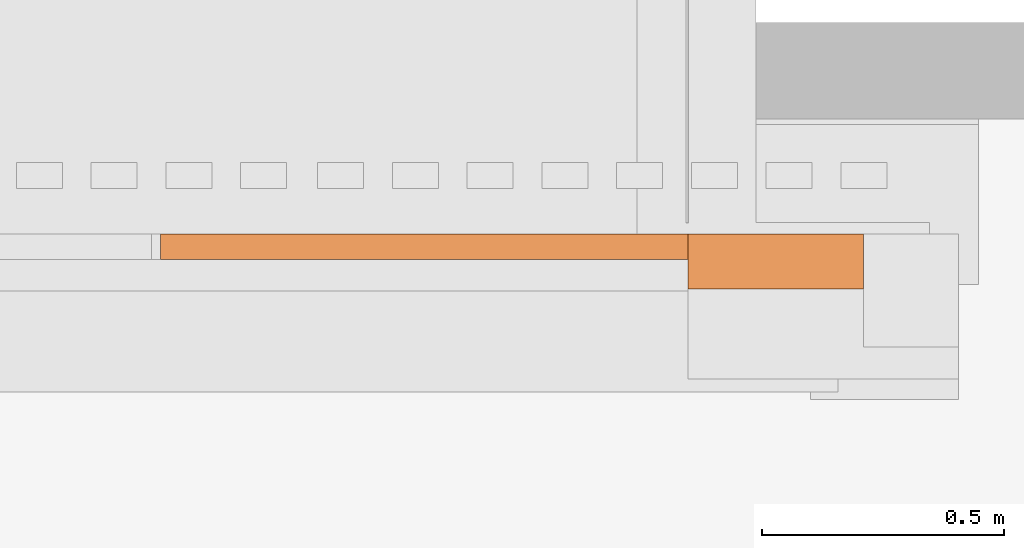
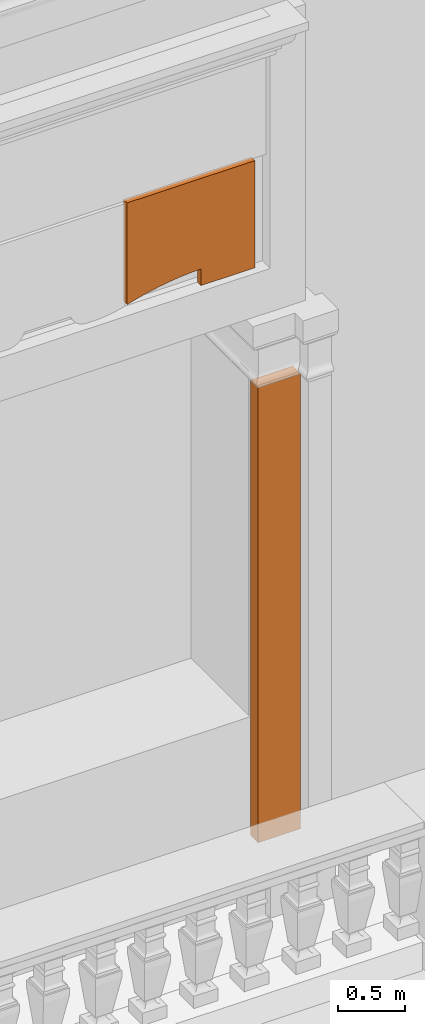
# One storey, part 5 of 14: 2 proxies.
"""IFC2X3 building model written with IfcOpenShell, lengths in metres."""

from ifc_helpers import new_model, entity, si_unit, converted_unit, derived_unit, direction, frame, frame_2d, origin, place, context, subcontext, project, spatial, polyline, circle_curve, parameter, trimmed, segment, composite_curve, rectangle, outline, extrude, material, element, save


model = new_model("IFC2X3")

# Units and contexts
model_context = context("Model", 3, precision=1e-05, world=origin(), true_north=direction((6.12303176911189e-17, 1.0)))
body_context = subcontext(model_context, "Body", "Model", "MODEL_VIEW")
ifc_project = project(units=[si_unit("LENGTHUNIT", "METRE"), si_unit("AREAUNIT", "SQUARE_METRE"), si_unit("VOLUMEUNIT", "CUBIC_METRE"), converted_unit("PLANEANGLEUNIT", "DEGREE", entity("IfcRatioMeasure", 0.0174532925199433), si_unit("PLANEANGLEUNIT", "RADIAN"), dimensions=[0, 0, 0, 0, 0, 0, 0]), si_unit("MASSUNIT", "GRAM", prefix="KILO"), derived_unit("MASSDENSITYUNIT", [(si_unit("MASSUNIT", "GRAM", prefix="KILO"), 1), (si_unit("LENGTHUNIT", "METRE"), -3)]), si_unit("TIMEUNIT", "SECOND"), si_unit("FREQUENCYUNIT", "HERTZ"), si_unit("THERMODYNAMICTEMPERATUREUNIT", "DEGREE_CELSIUS"), derived_unit("THERMALTRANSMITTANCEUNIT", [(si_unit("MASSUNIT", "GRAM", prefix="KILO"), 1), (si_unit("THERMODYNAMICTEMPERATUREUNIT", "KELVIN"), -1), (si_unit("TIMEUNIT", "SECOND"), -3)]), derived_unit("VOLUMETRICFLOWRATEUNIT", [(si_unit("LENGTHUNIT", "METRE"), 3), (si_unit("TIMEUNIT", "SECOND"), -1)]), si_unit("ELECTRICCURRENTUNIT", "AMPERE"), si_unit("ELECTRICVOLTAGEUNIT", "VOLT"), si_unit("POWERUNIT", "WATT"), si_unit("FORCEUNIT", "NEWTON", prefix="KILO"), si_unit("ILLUMINANCEUNIT", "LUX"), si_unit("LUMINOUSFLUXUNIT", "LUMEN"), si_unit("LUMINOUSINTENSITYUNIT", "CANDELA"), derived_unit("USERDEFINED", [(si_unit("MASSUNIT", "GRAM", prefix="KILO"), -1), (si_unit("LENGTHUNIT", "METRE"), -2), (si_unit("TIMEUNIT", "SECOND"), 3), (si_unit("LUMINOUSFLUXUNIT", "LUMEN"), 1)]), derived_unit("LINEARVELOCITYUNIT", [(si_unit("LENGTHUNIT", "METRE"), 1), (si_unit("TIMEUNIT", "SECOND"), -1)]), si_unit("PRESSUREUNIT", "PASCAL"), derived_unit("USERDEFINED", [(si_unit("LENGTHUNIT", "METRE"), -2), (si_unit("MASSUNIT", "GRAM", prefix="KILO"), 1), (si_unit("TIMEUNIT", "SECOND"), -2)])], contexts=[model_context])

# Site, building, storey
site_placement = place(None, origin())
site = spatial("IfcSite", under=ifc_project, at=site_placement, Name="Default", CompositionType="ELEMENT")
building_placement = place(site_placement, origin())
building = spatial("IfcBuilding", under=site, at=building_placement, CompositionType="ELEMENT")
storey_placement = place(building_placement, frame((0.0, 0.0, 13.366833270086)))
storey = spatial("IfcBuildingStorey", under=building, at=storey_placement, Name="Livello 2", CompositionType="ELEMENT", Elevation=13.366833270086)

# Proxies
ifc_material = material(Name="Travertino")
proxy_1_placement = place(storey_placement, frame((-6.49001124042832, 0.972978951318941, 5.76637845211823)))
element("IfcBuildingElementProxy", 1, at=proxy_1_placement, inside=storey, material=ifc_material, Name="Stratigrafia", context=body_context, shape_type="SweptSolid", body=[
    extrude(outline(composite_curve([segment(polyline([(-0.358597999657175, 0.0568382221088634), (-0.207085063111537, 0.0568382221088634)]), True, "CONTINUOUS"), segment(trimmed(circle_curve(frame_2d((-2.56510142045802, 0.109181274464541), x_axis=(0.949944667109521, -0.31241819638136)), 2.35859723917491), [parameter(1.27233359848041)], [parameter(16.9333846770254)], True, "PARAMETER"), False, "CONTINUOUS"), segment(polyline([(-0.308755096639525, -0.577755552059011), (0.61654518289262, -0.577723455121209)]), True, "CONTINUOUS"), segment(polyline([(0.61654518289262, -0.577723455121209), (0.616507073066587, 0.520918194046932)]), True, "CONTINUOUS"), segment(polyline([(0.616507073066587, 0.520918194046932), (-0.358614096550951, 0.520884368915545)]), True, "CONTINUOUS"), segment(polyline([(-0.358614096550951, 0.520884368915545), (-0.358597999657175, 0.0568382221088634)]), True, "CONTINUOUS")], self_intersect=False)), frame((0.579340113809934, 0.0, 0.358596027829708), z_axis=(0.0, 1.0, 0.0), x_axis=(-3.46881315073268e-05, 0.0, 1.0)), (0.0, 0.0, 1.0), 0.0525535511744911),
])
proxy_2_placement = place(storey_placement, frame((-5.39648498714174, 0.912024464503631, 0.572700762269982)))
element("IfcBuildingElementProxy", 2, at=proxy_2_placement, inside=storey, material=ifc_material, Name="Stratigrafia", context=body_context, shape_type="SweptSolid", body=[
    extrude(rectangle(XDim=4.14295671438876, YDim=0.113508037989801, at=frame_2d((6.93889390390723e-17, -2.22044604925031e-15), x_axis=(0.0, 1.0))), frame((0.0, 0.0567540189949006, 2.07147835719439), z_axis=(1.0, 0.0, 0.0), x_axis=(0.0, 1.0, 0.0)), (0.0, 0.0, 1.0), 0.363133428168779),
])

save(model, "model.ifc")
